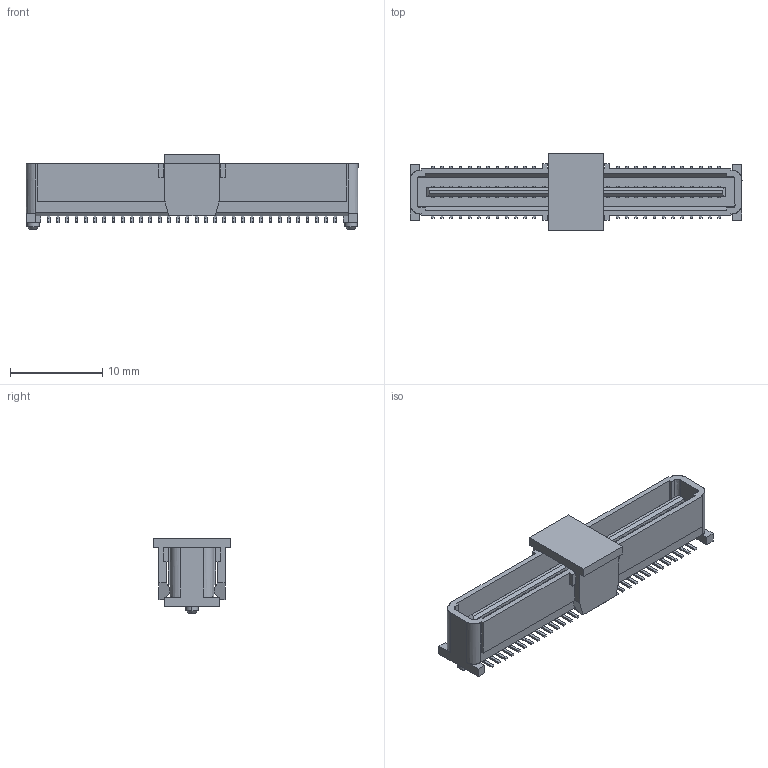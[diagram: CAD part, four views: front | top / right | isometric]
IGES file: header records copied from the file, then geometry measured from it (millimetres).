
Start section: SolidWorks IGES file using analytic representation for surfaces
Global section: file name: F:\ChengQQ\zhuomian\meiri\zuihou\2349-64G00DP1T-P\2349-64G00DP1T-P.IGS; native system: SolidWorks 2011; preprocessor: SolidWorks 2011; author: knoprd64; date: 151009.151858; units: millimetre
Bounding box: 35.9 x 8.35 x 8.11 mm (x, y, z)
Surface area: 2133 mm2 (no closed solid volume)
Topology: 0 solids, 0 shells, 2623 faces, 16182 edges, 16182 vertices
Faces by surface type: bspline 1706, revolution 917
